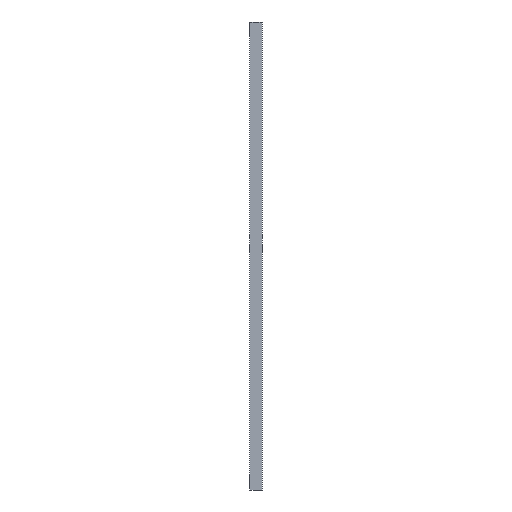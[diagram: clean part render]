
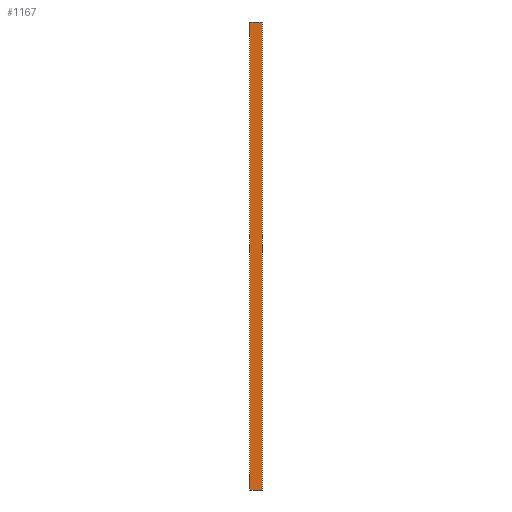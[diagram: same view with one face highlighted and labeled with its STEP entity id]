
A CAD part, left-side view. The second image highlights one B-rep face of the part: STEP entity #1167.
In plain terms, the highlighted planar face has unit normal (-1, 0, 0).
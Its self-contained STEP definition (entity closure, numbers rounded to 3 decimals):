
#1 = CARTESIAN_POINT ( 'NONE',  ( -8., 12.5, 0. ) ) ;
#45 = ORIENTED_EDGE ( 'NONE', *, *, #297, .F. ) ;
#57 = VERTEX_POINT ( 'NONE', #404 ) ;
#92 = DIRECTION ( 'NONE',  ( 0., 1., 0. ) ) ;
#142 = VECTOR ( 'NONE', #806, 1000. ) ;
#164 = VERTEX_POINT ( 'NONE', #598 ) ;
#165 = CARTESIAN_POINT ( 'NONE',  ( -8., 0., 479. ) ) ;
#214 = CARTESIAN_POINT ( 'NONE',  ( -8., 0., 0. ) ) ;
#264 = LINE ( 'NONE', #969, #142 ) ;
#281 = VECTOR ( 'NONE', #551, 1000. ) ;
#297 = EDGE_CURVE ( 'NONE', #164, #791, #326, .T. ) ;
#301 = CARTESIAN_POINT ( 'NONE',  ( -8., 0., 0. ) ) ;
#317 = DIRECTION ( 'NONE',  ( 0., 1., 0. ) ) ;
#319 = DIRECTION ( 'NONE',  ( 0., 1., 0. ) ) ;
#326 = LINE ( 'NONE', #340, #1404 ) ;
#328 = EDGE_CURVE ( 'NONE', #791, #823, #754, .T. ) ;
#340 = CARTESIAN_POINT ( 'NONE',  ( -8., 0., 0. ) ) ;
#342 = LINE ( 'NONE', #1218, #1018 ) ;
#350 = PLANE ( 'NONE',  #1322 ) ;
#404 = CARTESIAN_POINT ( 'NONE',  ( -8., 0., 479. ) ) ;
#416 = VERTEX_POINT ( 'NONE', #700 ) ;
#444 = LINE ( 'NONE', #1105, #281 ) ;
#489 = ORIENTED_EDGE ( 'NONE', *, *, #876, .T. ) ;
#505 = VERTEX_POINT ( 'NONE', #869 ) ;
#511 = VERTEX_POINT ( 'NONE', #1309 ) ;
#515 = EDGE_CURVE ( 'NONE', #511, #505, #1076, .T. ) ;
#551 = DIRECTION ( 'NONE',  ( 0., 0., -1. ) ) ;
#576 = CARTESIAN_POINT ( 'NONE',  ( -8., 9.3, 0. ) ) ;
#593 = DIRECTION ( 'NONE',  ( 0., 1., 0. ) ) ;
#598 = CARTESIAN_POINT ( 'NONE',  ( -8., 3.2, 0. ) ) ;
#647 = EDGE_CURVE ( 'NONE', #416, #57, #342, .T. ) ;
#667 = DIRECTION ( 'NONE',  ( -1., 0., 0. ) ) ;
#700 = CARTESIAN_POINT ( 'NONE',  ( -8., 3.2, 479. ) ) ;
#705 = ORIENTED_EDGE ( 'NONE', *, *, #716, .F. ) ;
#716 = EDGE_CURVE ( 'NONE', #57, #1188, #264, .T. ) ;
#724 = VECTOR ( 'NONE', #92, 1000. ) ;
#746 = CARTESIAN_POINT ( 'NONE',  ( -8., 0., 0. ) ) ;
#754 = LINE ( 'NONE', #746, #724 ) ;
#756 = DIRECTION ( 'NONE',  ( 0., -1., 0. ) ) ;
#767 = EDGE_CURVE ( 'NONE', #164, #1188, #1258, .T. ) ;
#783 = CARTESIAN_POINT ( 'NONE',  ( -8., 0., 479. ) ) ;
#787 = ORIENTED_EDGE ( 'NONE', *, *, #1207, .T. ) ;
#791 = VERTEX_POINT ( 'NONE', #576 ) ;
#806 = DIRECTION ( 'NONE',  ( 0., 0., -1. ) ) ;
#823 = VERTEX_POINT ( 'NONE', #1 ) ;
#869 = CARTESIAN_POINT ( 'NONE',  ( -8., 12.5, 479. ) ) ;
#876 = EDGE_CURVE ( 'NONE', #416, #511, #987, .T. ) ;
#969 = CARTESIAN_POINT ( 'NONE',  ( -8., 0., 479. ) ) ;
#971 = CARTESIAN_POINT ( 'NONE',  ( -8., 12.5, 479. ) ) ;
#987 = LINE ( 'NONE', #165, #999 ) ;
#998 = ORIENTED_EDGE ( 'NONE', *, *, #328, .F. ) ;
#999 = VECTOR ( 'NONE', #593, 1000. ) ;
#1018 = VECTOR ( 'NONE', #756, 1000. ) ;
#1064 = VECTOR ( 'NONE', #1135, 1000. ) ;
#1076 = LINE ( 'NONE', #971, #1292 ) ;
#1105 = CARTESIAN_POINT ( 'NONE',  ( -8., 12.5, 479. ) ) ;
#1120 = DIRECTION ( 'NONE',  ( 0., 0., 1. ) ) ;
#1126 = FACE_OUTER_BOUND ( 'NONE', #1388, .T. ) ;
#1135 = DIRECTION ( 'NONE',  ( 0., -1., 0. ) ) ;
#1167 = ADVANCED_FACE ( 'NONE', ( #1126 ), #350, .T. ) ;
#1188 = VERTEX_POINT ( 'NONE', #214 ) ;
#1207 = EDGE_CURVE ( 'NONE', #505, #823, #444, .T. ) ;
#1218 = CARTESIAN_POINT ( 'NONE',  ( -8., 0., 479. ) ) ;
#1233 = ORIENTED_EDGE ( 'NONE', *, *, #647, .F. ) ;
#1258 = LINE ( 'NONE', #301, #1064 ) ;
#1292 = VECTOR ( 'NONE', #317, 1000. ) ;
#1309 = CARTESIAN_POINT ( 'NONE',  ( -8., 9.3, 479. ) ) ;
#1322 = AXIS2_PLACEMENT_3D ( 'NONE', #783, #667, #1120 ) ;
#1344 = ORIENTED_EDGE ( 'NONE', *, *, #767, .T. ) ;
#1388 = EDGE_LOOP ( 'NONE', ( #45, #1344, #705, #1233, #489, #1396, #787, #998 ) ) ;
#1396 = ORIENTED_EDGE ( 'NONE', *, *, #515, .T. ) ;
#1404 = VECTOR ( 'NONE', #319, 1000. ) ;
